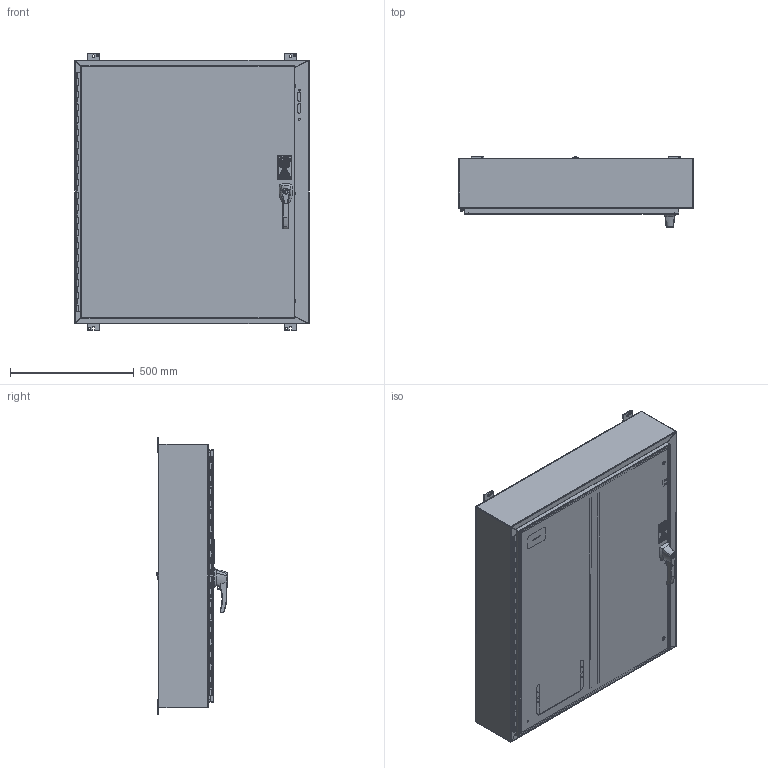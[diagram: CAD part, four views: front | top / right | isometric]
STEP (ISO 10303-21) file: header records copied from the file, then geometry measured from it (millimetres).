
FILE_DESCRIPTION(/* description */ ('Unknown'),/* implementation_level */ '2;1');
FILE_NAME(/* name */ '1447SJ8HK',/* time_stamp */ '2018-12-11T09:18:17-05:00',/* author */ ('Unknown'),/* organization */ ('Unknown'),/* preprocessor_version */ 'ST-DEVELOPER v16.7',/* originating_system */ 'DEX',/* authorisation */ $);
FILE_SCHEMA (('AUTOMOTIVE_DESIGN {1 0 10303 214 3 1 1}'));
Products named in the file (50): 1447SJ8HK; STD26094; COM55702-99; COM55702-9; STD21878; COM70657-20; STD26057; COM70662-38C; STD21879; COM55702-31; COM43576; COM43545; FET07710; COM40683; KIT90256; LAB30005; NTS165305; NTS16535; PKT99; BUL10020; COM70219_oa_0; COM56175; SCS86714; ROL87452; QLB20280; HNG10620-38B; LOC13320; AKT95002; WAF25059; NTS166105; HNG10620-38P; SCS86713; SPC87323; COM54932; HAN13060; HAN13060_SCREW; HAN13060_NUT; HAN_NUT; NTS17050; WAM30029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
Assembly tree (79 placements, depth 3):
  1447SJ8HK
    STD26094  x8
    COM55702-99  x2
    COM55702-9
    STD21878
    COM70657-20
      STD26057  x2
      COM70662-38C
      STD21878
      COM70657-20
      STD21879  x2
      COM55702-31
    COM43576
    COM43545
    FET07710  x4
    COM40683
    KIT90256
      LAB30005
      NTS165305
      NTS16535
    PKT99
    BUL10020
    COM70219_oa_0
    COM56175  x3
      SCS86714
      ROL87452
      COM56175
    QLB20280
    HNG10620-38B
    LOC13320  x2
    AKT95002  x4
      WAF25059
      NTS166105
    HNG10620-38P
    SCS86713  x3
    SPC87323
    COM54932
    HAN13060
      HAN13060
      HAN13060_SCREW
      HAN13060_NUT
      HAN_NUT
    NTS17050  x2
    WAM30029  x2
    NTS16699  x2
    COM70658-11
    COM55891
    WAF250205  x2
    SCS189755  x2
    KIT90518
      WAF25059
      NTS166105
      LAB30005
    LAB20180
Bounding box: 949.33 x 285.29 x 1123.94 mm (x, y, z)
Volume: 8933564.9 mm3; surface area: 8951453.3 mm2
Topology: 77 solids, 78 shells, 4773 faces, 12219 edges, 8093 vertices
Faces by surface type: plane 3557, bspline 599, cylinder 525, cone 47, torus 41, sphere 4
Full cylindrical faces by diameter (mm): 3.967 x2, 4.394 x2, 4.47 x6, 4.572 x2, 4.763 x1, 4.775 x2, 4.976 x3, 5.461 x2, 5.893 x1, 5.918 x1, 6.35 x16, 6.502 x2, 6.731 x3, 7.137 x4, 7.805 x5, 7.938 x8, 8.001 x2, 8.128 x1, 8.255 x1, 8.382 x8, 8.484 x1, 8.89 x1, 9.525 x15, 10.008 x2, 10.211 x2, 10.49 x3, 11.049 x2, 11.113 x4, 11.303 x5, 11.989 x2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
Entity records: 154650 total; most frequent: CARTESIAN_POINT 62023, ORIENTED_EDGE 21398, DIRECTION 13862, EDGE_CURVE 10699, VERTEX_POINT 7159, B_SPLINE_CURVE_WITH_KNOTS 5025, EDGE_LOOP 4938, FACE_BOUND 4938
